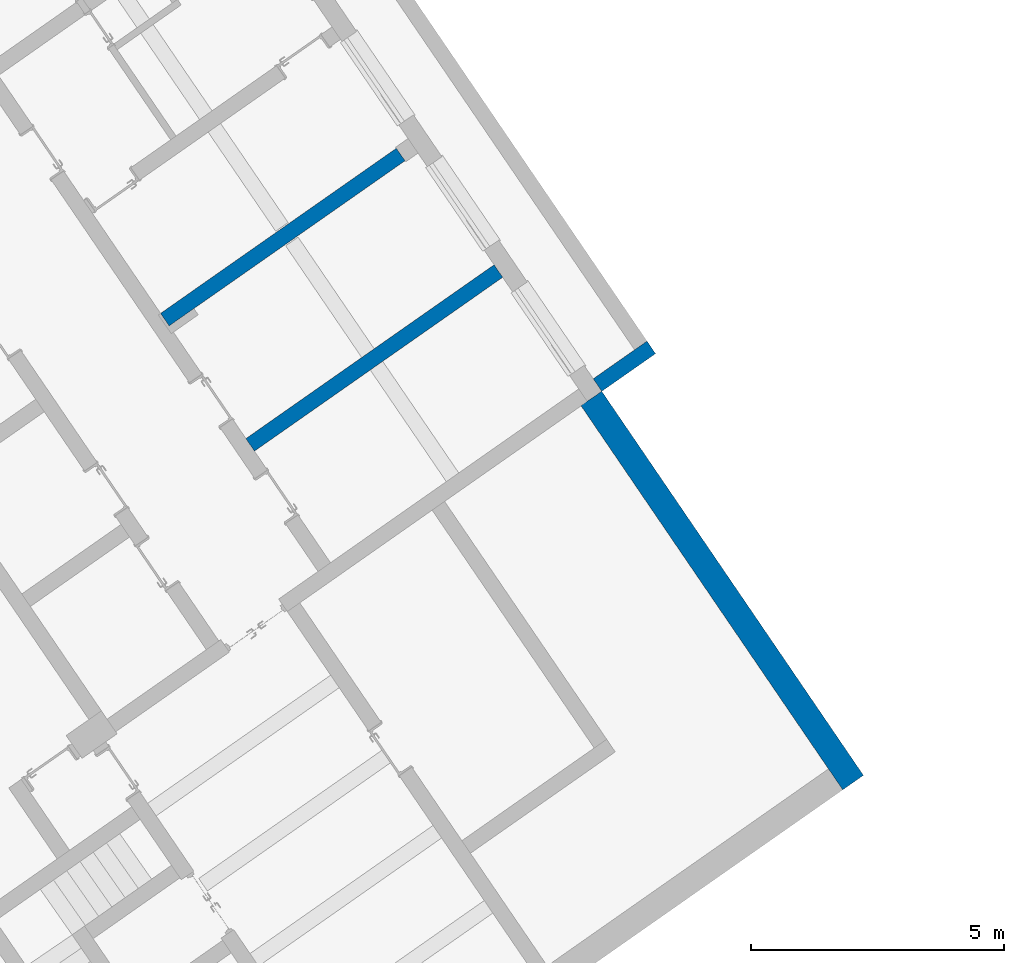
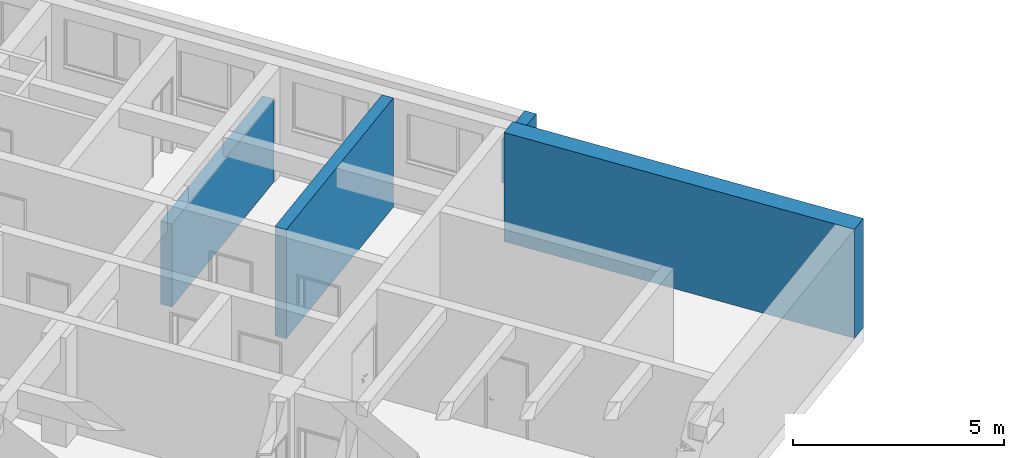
# One storey, part 50 of 112: 4 walls.
"""IFC2X3 building model written with IfcOpenShell, lengths in millimetres."""

from ifc_helpers import new_model, entity, si_unit, converted_unit, derived_unit, direction, frame, origin, place, context, subcontext, project, spatial, polyline, outline, extrude, material, layer, layer_set, layer_usage, type_object, element, save


model = new_model("IFC2X3")

# Units and contexts
model_context = context("Model", 3, precision=0.01, world=origin(), true_north=direction((6.123031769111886e-17, 1.0)))
body_context = subcontext(model_context, "Body", "Model", "MODEL_VIEW")
ifc_project = project(units=[si_unit("LENGTHUNIT", "METRE", prefix="MILLI"), si_unit("AREAUNIT", "SQUARE_METRE"), si_unit("VOLUMEUNIT", "CUBIC_METRE"), converted_unit("PLANEANGLEUNIT", "DEGREE", entity("IfcRatioMeasure", 0.017453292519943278), si_unit("PLANEANGLEUNIT", "RADIAN"), dimensions=[0, 0, 0, 0, 0, 0, 0]), si_unit("MASSUNIT", "GRAM", prefix="KILO"), derived_unit("MASSDENSITYUNIT", [(si_unit("MASSUNIT", "GRAM", prefix="KILO"), 1), (si_unit("LENGTHUNIT", "METRE"), -3)]), derived_unit("MOMENTOFINERTIAUNIT", [(si_unit("LENGTHUNIT", "METRE"), 4)]), si_unit("TIMEUNIT", "SECOND"), si_unit("FREQUENCYUNIT", "HERTZ"), si_unit("THERMODYNAMICTEMPERATUREUNIT", "DEGREE_CELSIUS"), derived_unit("THERMALTRANSMITTANCEUNIT", [(si_unit("MASSUNIT", "GRAM", prefix="KILO"), 1), (si_unit("THERMODYNAMICTEMPERATUREUNIT", "KELVIN"), -1), (si_unit("TIMEUNIT", "SECOND"), -3)]), derived_unit("THERMALCONDUCTANCEUNIT", [(si_unit("MASSUNIT", "GRAM", prefix="KILO"), 1), (si_unit("LENGTHUNIT", "METRE"), 1), (si_unit("THERMODYNAMICTEMPERATUREUNIT", "KELVIN"), -1), (si_unit("TIMEUNIT", "SECOND"), -3)]), derived_unit("VOLUMETRICFLOWRATEUNIT", [(si_unit("LENGTHUNIT", "METRE"), 3), (si_unit("TIMEUNIT", "SECOND"), -1)]), derived_unit("MASSFLOWRATEUNIT", [(si_unit("MASSUNIT", "GRAM", prefix="KILO"), 1), (si_unit("TIMEUNIT", "SECOND"), -1)]), derived_unit("ROTATIONALFREQUENCYUNIT", [(si_unit("TIMEUNIT", "SECOND"), -1)]), si_unit("ELECTRICCURRENTUNIT", "AMPERE"), si_unit("ELECTRICVOLTAGEUNIT", "VOLT"), si_unit("POWERUNIT", "WATT"), converted_unit("FORCEUNIT", "KIP", entity("IfcRatioMeasure", 2.088543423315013e-05), si_unit("FORCEUNIT", "NEWTON"), dimensions=[1, 1, -2, 0, 0, 0, 0]), si_unit("ILLUMINANCEUNIT", "LUX"), si_unit("LUMINOUSFLUXUNIT", "LUMEN"), si_unit("LUMINOUSINTENSITYUNIT", "CANDELA"), derived_unit("USERDEFINED", [(si_unit("MASSUNIT", "GRAM", prefix="KILO"), -1), (si_unit("LENGTHUNIT", "METRE"), -2), (si_unit("TIMEUNIT", "SECOND"), 3), (si_unit("LUMINOUSFLUXUNIT", "LUMEN"), 1)]), derived_unit("USERDEFINED", [(si_unit("MASSUNIT", "GRAM", prefix="KILO"), 1), (si_unit("LENGTHUNIT", "METRE"), 3), (si_unit("TIMEUNIT", "SECOND"), -3), (si_unit("ELECTRICCURRENTUNIT", "AMPERE"), -2)]), derived_unit("USERDEFINED", [(si_unit("LENGTHUNIT", "METRE"), 2), (si_unit("TIMEUNIT", "SECOND"), -2)]), derived_unit("SOUNDPOWERUNIT", [(si_unit("MASSUNIT", "GRAM", prefix="KILO"), 1), (si_unit("LENGTHUNIT", "METRE"), 2), (si_unit("TIMEUNIT", "SECOND"), -3)]), derived_unit("SOUNDPRESSUREUNIT", [(si_unit("MASSUNIT", "GRAM", prefix="KILO"), 1), (si_unit("LENGTHUNIT", "METRE"), -1), (si_unit("TIMEUNIT", "SECOND"), -2)]), derived_unit("LINEARVELOCITYUNIT", [(si_unit("LENGTHUNIT", "METRE"), 1), (si_unit("TIMEUNIT", "SECOND"), -1)]), si_unit("PRESSUREUNIT", "PASCAL"), derived_unit("USERDEFINED", [(si_unit("LENGTHUNIT", "METRE"), -2), (si_unit("MASSUNIT", "GRAM", prefix="KILO"), 1), (si_unit("TIMEUNIT", "SECOND"), -2)]), derived_unit("LINEARFORCEUNIT", [(si_unit("MASSUNIT", "GRAM", prefix="KILO"), 1), (si_unit("LENGTHUNIT", "METRE"), 1), (si_unit("TIMEUNIT", "SECOND"), -2), (si_unit("LENGTHUNIT", "METRE"), -1)]), derived_unit("PLANARFORCEUNIT", [(si_unit("MASSUNIT", "GRAM", prefix="KILO"), 1), (si_unit("LENGTHUNIT", "METRE"), 1), (si_unit("TIMEUNIT", "SECOND"), -2), (si_unit("LENGTHUNIT", "METRE"), -2)]), derived_unit("SPECIFICHEATCAPACITYUNIT", [(si_unit("LENGTHUNIT", "METRE"), 2), (si_unit("TIMEUNIT", "SECOND"), -2), (si_unit("THERMODYNAMICTEMPERATUREUNIT", "KELVIN"), -1)]), derived_unit("VAPORPERMEABILITYUNIT", [(si_unit("TIMEUNIT", "SECOND"), 1), (si_unit("LENGTHUNIT", "METRE"), -1)]), derived_unit("DYNAMICVISCOSITYUNIT", [(si_unit("MASSUNIT", "GRAM", prefix="KILO"), 1), (si_unit("LENGTHUNIT", "METRE"), -1), (si_unit("TIMEUNIT", "SECOND"), -1)]), derived_unit("THERMALEXPANSIONCOEFFICIENTUNIT", [(si_unit("THERMODYNAMICTEMPERATUREUNIT", "KELVIN"), -1)])], contexts=[model_context])

# Site, building, storey
site_placement = place(None, frame((0.0, 0.0, 0.0), z_axis=(0.0, 0.0, 1.0), x_axis=(0.8191520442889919, 0.5735764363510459, 0.0)))
site = spatial("IfcSite", under=ifc_project, at=site_placement, Name="Default", CompositionType="ELEMENT")
building_placement = place(site_placement, origin())
building = spatial("IfcBuilding", under=site, at=building_placement, CompositionType="ELEMENT")
storey_placement = place(building_placement, frame((0.0, 0.0, -3600.0)))
storey = spatial("IfcBuildingStorey", under=building, at=storey_placement, Name="0.UG -3.60", CompositionType="ELEMENT", Elevation=-3600.0000000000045)

# Walls
ifc_material = material(Name="Analytical Wall Surface_CJC")
ifc_layer_1 = layer(ifc_material, 300.0)
ifc_layer_set_1 = layer_set([ifc_layer_1], Name="Basic Wall:Wand_Innen_30")
ifc_layer_usage_1 = layer_usage(ifc_layer_set_1, "AXIS2", "POSITIVE", -150.0)
wall_type_1 = type_object("IfcWallType", Name="Basic Wall:Wand_Innen_30", PredefinedType="STANDARD", material=ifc_layer_set_1)
wall_1_placement = place(storey_placement, frame((-205748.00302140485, 64396.35891435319, 300.0), z_axis=(0.0, 0.0, 1.0), x_axis=(-1.0, 0.0, 0.0)))
element("IfcWallStandardCase", 1, at=wall_1_placement, inside=storey, type_object=wall_type_1, material=ifc_layer_usage_1, Name="Basic Wall:Wand_Innen_30", ObjectType="Basic Wall:Wand_Innen_30", context=body_context, shape_type="SweptSolid", body=[
    extrude(outline(polyline([(6000.471794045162, -150.0), (6004.290979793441, 150.0), (3.8191987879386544, 150.0), (0.0, -150.0), (6000.471794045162, -150.0)])), origin(), (0.0, 0.0, 1.0), 3150.0),
])
wall_2_placement = place(storey_placement, frame((-206011.7030359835, 67396.35891435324, 300.0), z_axis=(0.0, 0.0, 1.0), x_axis=(-1.0, 0.0, 0.0)))
element("IfcWallStandardCase", 2, at=wall_2_placement, inside=storey, type_object=wall_type_1, material=ifc_layer_usage_1, Name="Basic Wall:Wand_Innen_30", ObjectType="Basic Wall:Wand_Innen_30", context=body_context, shape_type="SweptSolid", body=[
    extrude(outline(polyline([(5698.579921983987, -150.0), (5702.399107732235, 150.0), (5104.2600819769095, 150.0), (0.0, 150.0), (0.0, -150.0), (5698.579921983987, -150.0)])), origin(), (0.0, 0.0, 1.0), 2400.0),
])
ifc_layer_2 = layer(ifc_material, 500.00000000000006)
ifc_layer_set_2 = layer_set([ifc_layer_2], Name="Basic Wall:Wand_Aussen_50")
ifc_layer_usage_2 = layer_usage(ifc_layer_set_2, "AXIS2", "NEGATIVE", 250.00000000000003)
wall_type_2 = type_object("IfcWallType", Name="Basic Wall:Wand_Aussen_50", PredefinedType="STANDARD", material=ifc_layer_set_2)
wall_3_placement = place(storey_placement, frame((-205689.6473251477, 61274.54124661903, 300.0), z_axis=(0.0, 0.0, 1.0), x_axis=(-0.012729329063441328, -0.9999189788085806, 0.0)))
element("IfcWallStandardCase", 3, at=wall_3_placement, inside=storey, type_object=wall_type_2, material=ifc_layer_usage_2, Name="Basic Wall:Wand_Aussen_50", ObjectType="Basic Wall:Wand_Aussen_50", context=body_context, shape_type="SweptSolid", body=[
    extrude(outline(polyline([(9207.110635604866, -250.0), (9200.74545535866, 250.0), (0.0, 250.0), (0.0, -250.0), (8707.070121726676, -250.0), (9207.110635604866, -250.0)])), origin(), (0.0, 0.0, 1.0), 3150.000000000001),
])
ifc_layer_3 = layer(ifc_material, 300.0)
ifc_layer_set_3 = layer_set([ifc_layer_3], Name="Basic Wall:Wand_Aussen_30")
ifc_layer_usage_3 = layer_usage(ifc_layer_set_3, "AXIS2", "POSITIVE", -150.0)
wall_type_3 = type_object("IfcWallType", Name="Basic Wall:Wand_Aussen_30", PredefinedType="STANDARD", material=ifc_layer_set_3)
wall_4_placement = place(storey_placement, frame((-205439.66758044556, 61421.35891435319, 1600.0)))
element("IfcWallStandardCase", 4, at=wall_4_placement, inside=storey, type_object=wall_type_3, material=ifc_layer_usage_3, Name="Basic Wall:Wand_Aussen_30", ObjectType="Basic Wall:Wand_Aussen_30", context=body_context, shape_type="SweptSolid", body=[
    extrude(outline(polyline([(1300.10772011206, -150.0), (1303.9269058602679, 150.0), (1003.9025965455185, 150.0), (3.8191987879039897, 150.0), (0.0, -150.0), (1300.10772011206, -150.0)])), origin(), (0.0, 0.0, 1.0), 1250.0),
])

save(model, "model.ifc")
